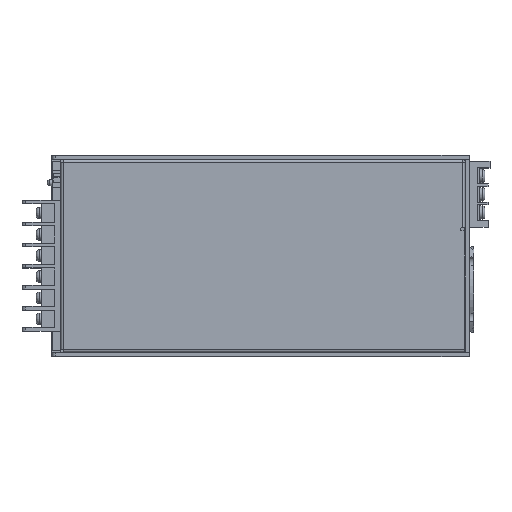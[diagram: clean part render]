
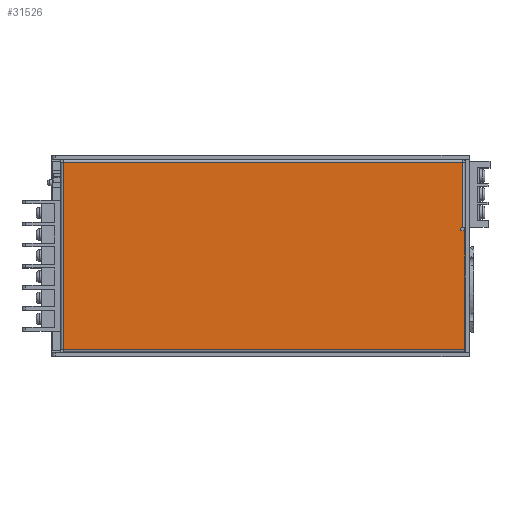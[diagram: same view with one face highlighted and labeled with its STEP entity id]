
A CAD part, top view. The second image highlights one B-rep face of the part: STEP entity #31526.
In plain terms, the highlighted planar face has unit normal (0, 0, 1).
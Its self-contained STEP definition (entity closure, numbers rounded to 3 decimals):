
#31361=CARTESIAN_POINT('',(260.878,127.958,63.5));
#31362=VERTEX_POINT('',#31361);
#31369=CARTESIAN_POINT('',(260.878,65.858,63.5));
#31370=VERTEX_POINT('',#31369);
#31371=CARTESIAN_POINT('',(260.878,127.958,63.5));
#31372=DIRECTION('',(0.0,-1.0,0.0));
#31373=VECTOR('',#31372,62.1);
#31374=LINE('',#31371,#31373);
#31375=EDGE_CURVE('',#31362,#31370,#31374,.T.);
#31463=CARTESIAN_POINT('',(260.878,64.558,63.5));
#31464=DIRECTION('',(0.0,0.0,1.0));
#31465=DIRECTION('',(1.0,0.0,0.0));
#31466=AXIS2_PLACEMENT_3D('',#31463,#31464,#31465);
#31467=PLANE('',#31466);
#31468=CARTESIAN_POINT('',(51.167,65.858,63.5));
#31469=VERTEX_POINT('',#31468);
#31470=CARTESIAN_POINT('',(260.878,65.858,63.5));
#31471=DIRECTION('',(-1.0,0.0,0.0));
#31472=VECTOR('',#31471,209.711);
#31473=LINE('',#31470,#31472);
#31474=EDGE_CURVE('',#31370,#31469,#31473,.T.);
#31475=ORIENTED_EDGE('',*,*,#31474,.F.);
#31476=ORIENTED_EDGE('',*,*,#31375,.F.);
#31477=CARTESIAN_POINT('',(259.378,127.958,63.5));
#31478=VERTEX_POINT('',#31477);
#31479=CARTESIAN_POINT('',(260.878,127.958,63.5));
#31480=DIRECTION('',(-1.0,0.0,0.0));
#31481=VECTOR('',#31480,1.5);
#31482=LINE('',#31479,#31481);
#31483=EDGE_CURVE('',#31362,#31478,#31482,.T.);
#31484=ORIENTED_EDGE('',*,*,#31483,.T.);
#31485=CARTESIAN_POINT('',(259.378,129.558,63.5));
#31486=VERTEX_POINT('',#31485);
#31487=CARTESIAN_POINT('',(259.378,128.758,63.5));
#31488=DIRECTION('',(0.0,0.0,1.0));
#31489=DIRECTION('',(1.0,0.0,0.0));
#31490=AXIS2_PLACEMENT_3D('',#31487,#31488,#31489);
#31491=CIRCLE('',#31490,0.8);
#31492=EDGE_CURVE('',#31486,#31478,#31491,.T.);
#31493=ORIENTED_EDGE('',*,*,#31492,.F.);
#31494=CARTESIAN_POINT('',(259.578,129.558,63.5));
#31495=VERTEX_POINT('',#31494);
#31496=CARTESIAN_POINT('',(259.578,129.558,63.5));
#31497=DIRECTION('',(-1.0,0.0,0.0));
#31498=VECTOR('',#31497,0.2);
#31499=LINE('',#31496,#31498);
#31500=EDGE_CURVE('',#31495,#31486,#31499,.T.);
#31501=ORIENTED_EDGE('',*,*,#31500,.F.);
#31502=CARTESIAN_POINT('',(259.578,163.858,63.5));
#31503=VERTEX_POINT('',#31502);
#31504=CARTESIAN_POINT('',(259.578,163.858,63.5));
#31505=DIRECTION('',(0.0,-1.0,0.0));
#31506=VECTOR('',#31505,34.3);
#31507=LINE('',#31504,#31506);
#31508=EDGE_CURVE('',#31503,#31495,#31507,.T.);
#31509=ORIENTED_EDGE('',*,*,#31508,.F.);
#31510=CARTESIAN_POINT('',(51.167,163.858,63.5));
#31511=VERTEX_POINT('',#31510);
#31512=CARTESIAN_POINT('',(51.167,163.858,63.5));
#31513=DIRECTION('',(1.0,0.0,0.0));
#31514=VECTOR('',#31513,208.411);
#31515=LINE('',#31512,#31514);
#31516=EDGE_CURVE('',#31511,#31503,#31515,.T.);
#31517=ORIENTED_EDGE('',*,*,#31516,.F.);
#31518=CARTESIAN_POINT('',(51.167,65.858,63.5));
#31519=DIRECTION('',(0.0,1.0,0.0));
#31520=VECTOR('',#31519,98.0);
#31521=LINE('',#31518,#31520);
#31522=EDGE_CURVE('',#31469,#31511,#31521,.T.);
#31523=ORIENTED_EDGE('',*,*,#31522,.F.);
#31524=EDGE_LOOP('',(#31475,#31476,#31484,#31493,#31501,#31509,#31517,#31523));
#31525=FACE_OUTER_BOUND('',#31524,.T.);
#31526=ADVANCED_FACE('',(#31525),#31467,.T.);
